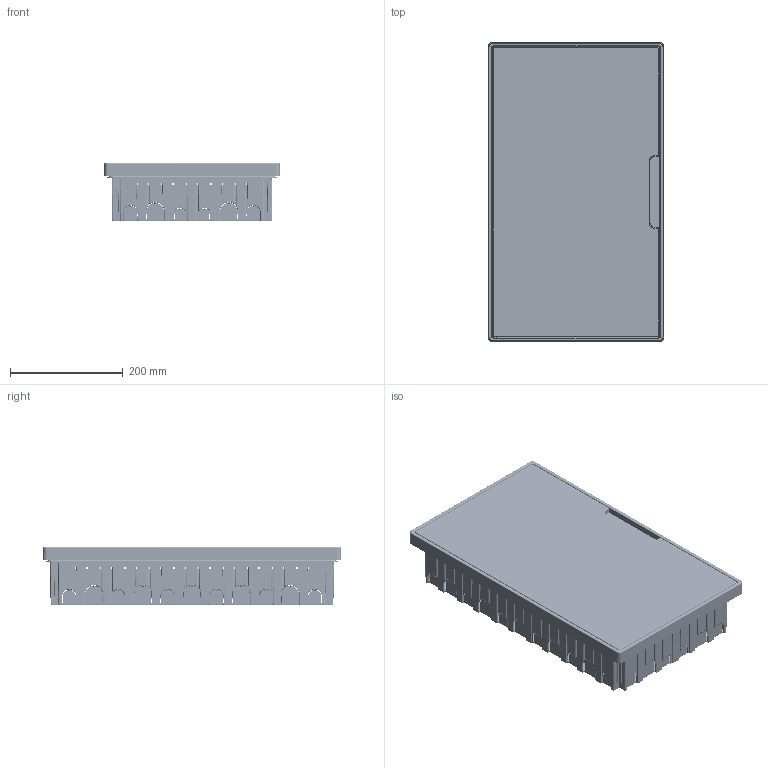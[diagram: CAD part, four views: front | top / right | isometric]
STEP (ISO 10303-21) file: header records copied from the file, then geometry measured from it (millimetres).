
FILE_DESCRIPTION (( 'STEP AP203' ), '1' );
FILE_NAME ('F36B1BD 糂琲籵褌隆 36.STEP', '2025-10-13T07:47:48', ( '' ), ( '' ), 'SwSTEP 2.0', 'SolidWorks 2022', '' );
FILE_SCHEMA (( 'CONFIG_CONTROL_DESIGN' ));
Length unit declared in the file: millimetre
Products named in the file (6): TPA.08.0165.00.01.0 simple; TPA.08.0165.00.02.0 simple; TPA.08.0105.00.05.0 simple_-01; RB.2992.00.00.0 simple_-01; F36B1BD встраиваемый 36; TPA.08.0105.00.04.0 simple
Assembly tree (8 placements, depth 2):
  F36B1BD встраиваемый 36
    TPA.08.0165.00.01.0 simple
    TPA.08.0165.00.02.0 simple  x2
    RB.2992.00.00.0 simple_-01  x3
    TPA.08.0105.00.04.0 simple
    TPA.08.0105.00.05.0 simple_-01
Bounding box: 311.6 x 529.1 x 102.5 mm (x, y, z)
Volume: 2431741.9 mm3; surface area: 1531771.5 mm2
Topology: 8 solids, 82 shells, 8465 faces, 21815 edges, 13289 vertices
Faces by surface type: cylinder 3264, plane 2923, bspline 1262, sphere 512, torus 282, cone 222
Full cylindrical faces by diameter (mm): 3 x6, 4.6 x4
Entity records: 325694 total; most frequent: CARTESIAN_POINT 165148, ORIENTED_EDGE 36488, DIRECTION 29099, EDGE_CURVE 18244, VERTEX_POINT 11159, AXIS2_PLACEMENT_3D 9709, VECTOR 9681, LINE 9681
